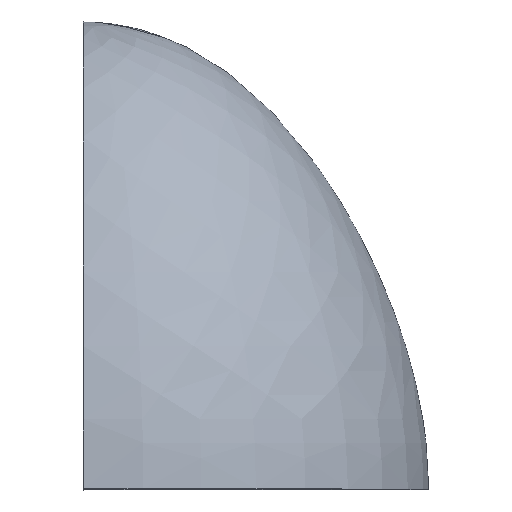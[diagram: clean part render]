
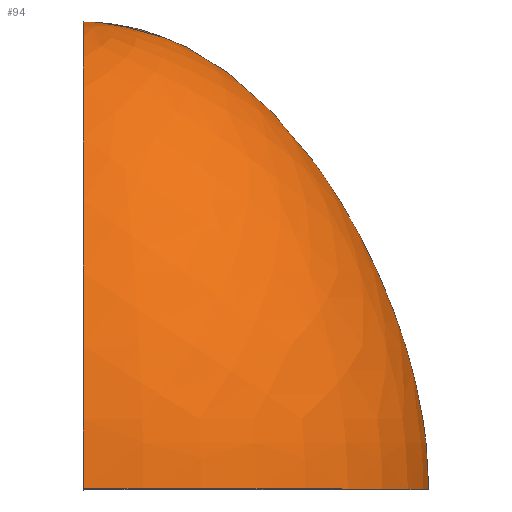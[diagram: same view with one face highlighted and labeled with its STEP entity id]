
A CAD part, top view. The second image highlights one B-rep face of the part: STEP entity #94.
In plain terms, the highlighted face is a revolution surface.
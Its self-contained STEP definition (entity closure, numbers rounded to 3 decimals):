
#52=CARTESIAN_POINT('Control Point',(0.,0.,85.)) ;
#53=CARTESIAN_POINT('Control Point',(0.,28.601,85.)) ;
#54=CARTESIAN_POINT('Control Point',(0.,60.926,74.475)) ;
#55=CARTESIAN_POINT('Control Point',(0.,96.975,53.426)) ;
#56=CARTESIAN_POINT('Control Point',(0.,115.,28.601)) ;
#57=CARTESIAN_POINT('Control Point',(0.,115.,0.)) ;
#58=CARTESIAN_POINT('Axis1P Location',(0.,0.,0.)) ;
#63=CARTESIAN_POINT('Control Point',(0.,0.,-85.)) ;
#64=CARTESIAN_POINT('Control Point',(0.,28.601,-85.)) ;
#65=CARTESIAN_POINT('Control Point',(0.,60.926,-74.475)) ;
#66=CARTESIAN_POINT('Control Point',(0.,96.975,-53.426)) ;
#67=CARTESIAN_POINT('Control Point',(0.,115.,-28.601)) ;
#68=CARTESIAN_POINT('Control Point',(0.,115.,0.)) ;
#69=CARTESIAN_POINT('Vertex',(0.,0.,-85.)) ;
#71=CARTESIAN_POINT('Vertex',(0.,115.,0.)) ;
#75=CARTESIAN_POINT('Control Point',(0.,0.,85.)) ;
#76=CARTESIAN_POINT('Control Point',(0.,28.601,85.)) ;
#77=CARTESIAN_POINT('Control Point',(0.,60.926,74.475)) ;
#78=CARTESIAN_POINT('Control Point',(0.,96.975,53.426)) ;
#79=CARTESIAN_POINT('Control Point',(0.,115.,28.601)) ;
#80=CARTESIAN_POINT('Control Point',(0.,115.,0.)) ;
#81=CARTESIAN_POINT('Vertex',(0.,0.,85.)) ;
#84=CARTESIAN_POINT('Axis2P3D Location',(0.,0.,0.)) ;
#59=DIRECTION('Axis1P Direction',(0.,1.,0.)) ;
#85=DIRECTION('Axis2P3D Direction',(0.,1.,0.)) ;
#86=AXIS2_PLACEMENT_3D('Circle Axis2P3D',#84,#85,$) ;
#90=ORIENTED_EDGE('',*,*,#73,.T.) ;
#91=ORIENTED_EDGE('',*,*,#83,.F.) ;
#92=ORIENTED_EDGE('',*,*,#88,.T.) ;
#94=ADVANCED_FACE('PartBody',(#93),#61,.T.) ;
#60=AXIS1_PLACEMENT('Revolution Surface Axis1P',#58,#59) ;
#51=B_SPLINE_CURVE_WITH_KNOTS('',5,(#52,#53,#54,#55,#56,#57),.UNSPECIFIED.,.F.,.U.,(6,6),(0.,143.003),.UNSPECIFIED.) ;
#62=B_SPLINE_CURVE_WITH_KNOTS('',5,(#63,#64,#65,#66,#67,#68),.UNSPECIFIED.,.F.,.U.,(6,6),(0.,143.003),.UNSPECIFIED.) ;
#74=B_SPLINE_CURVE_WITH_KNOTS('',5,(#75,#76,#77,#78,#79,#80),.UNSPECIFIED.,.F.,.U.,(6,6),(0.,143.003),.UNSPECIFIED.) ;
#87=CIRCLE('generated circle',#86,85.) ;
#73=EDGE_CURVE('',#70,#72,#62,.T.) ;
#83=EDGE_CURVE('',#82,#72,#74,.T.) ;
#88=EDGE_CURVE('',#82,#70,#87,.T.) ;
#89=EDGE_LOOP('',(#90,#91,#92)) ;
#93=FACE_OUTER_BOUND('',#89,.T.) ;
#61=SURFACE_OF_REVOLUTION('Surface of Revolution',#51,#60) ;
#70=VERTEX_POINT('',#69) ;
#72=VERTEX_POINT('',#71) ;
#82=VERTEX_POINT('',#81) ;
